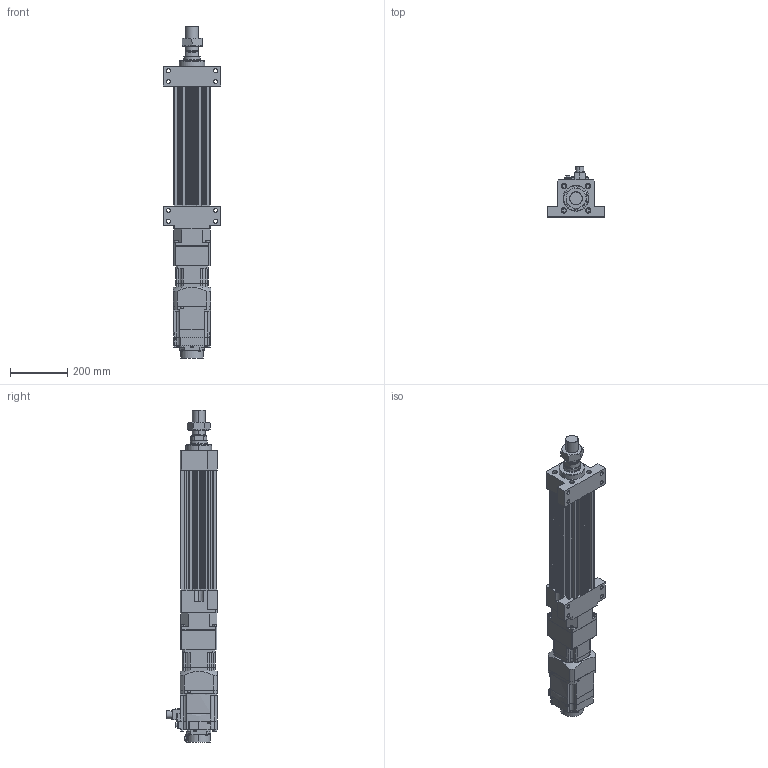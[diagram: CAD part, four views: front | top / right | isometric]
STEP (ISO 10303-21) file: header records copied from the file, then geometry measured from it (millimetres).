
FILE_DESCRIPTION (( 'STEP AP203' ), '1' );
FILE_NAME ('HES130NS(FS)(HS)-S200-W015G00-M-FFB.STEP', '2026-06-10T06:14:30', ( 'tms' ), ( '' ), 'SwSTEP 2.0', 'SolidWorks 2013', '' );
FILE_SCHEMA (( 'CONFIG_CONTROL_DESIGN' ));
Length unit declared in the file: millimetre
Products named in the file (8): HES130-FFB-200; AB1151; M45X1.5P; HES130-S-G120; HES130NS(FS)(HS)-S200-W015G00-M-FFB; AB1152; HG-SR152B; HES130-M-ROD-200
Assembly tree (7 placements, depth 2):
  HES130NS(FS)(HS)-S200-W015G00-M-FFB
    HES130-FFB-200
    HES130-M-ROD-200
    M45X1.5P
    HES130-S-G120
    AB1151
    AB1152
    HG-SR152B
Bounding box: 200 x 177.49 x 1162 mm (x, y, z)
Volume: 9432137.1 mm3; surface area: 1150734.7 mm2
Topology: 5 solids, 12 shells, 1246 faces, 3164 edges, 2063 vertices
Faces by surface type: plane 586, cylinder 572, cone 74, bspline 10, torus 4
Entity records: 39589 total; most frequent: CARTESIAN_POINT 7596, DIRECTION 6833, ORIENTED_EDGE 6300, EDGE_CURVE 3160, AXIS2_PLACEMENT_3D 2521, VERTEX_POINT 2063, LINE 1791, VECTOR 1791
